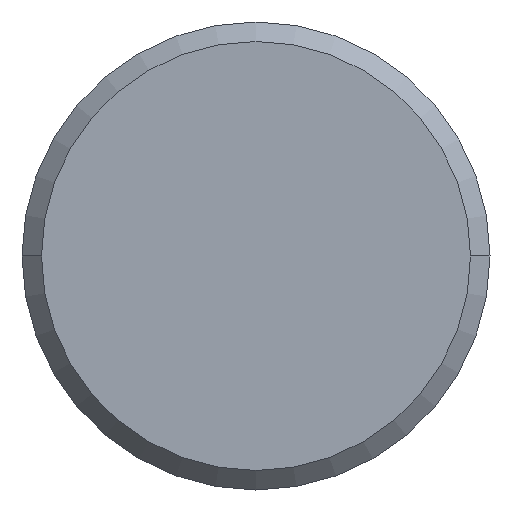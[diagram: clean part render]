
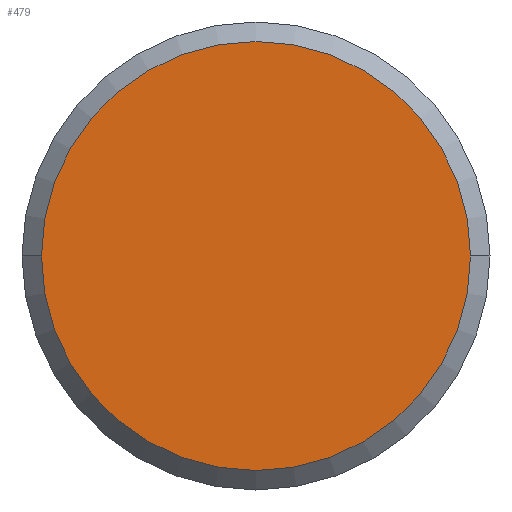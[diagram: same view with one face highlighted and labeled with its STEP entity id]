
A CAD part, left-side view. The second image highlights one B-rep face of the part: STEP entity #479.
In plain terms, the highlighted planar face has unit normal (-1, 0, 0).
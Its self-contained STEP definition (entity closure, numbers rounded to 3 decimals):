
#8 = VERTEX_POINT ( 'NONE', #398 ) ;
#29 = CIRCLE ( 'NONE', #414, 5.5 ) ;
#41 = VERTEX_POINT ( 'NONE', #141 ) ;
#44 = AXIS2_PLACEMENT_3D ( 'NONE', #435, #473, #219 ) ;
#70 = AXIS2_PLACEMENT_3D ( 'NONE', #422, #131, #394 ) ;
#78 = EDGE_CURVE ( 'NONE', #41, #8, #253, .T. ) ;
#131 = DIRECTION ( 'NONE',  ( -1., 0., 0. ) ) ;
#141 = CARTESIAN_POINT ( 'NONE',  ( -53., -5.5, 0. ) ) ;
#155 = EDGE_CURVE ( 'NONE', #8, #41, #29, .T. ) ;
#191 = CARTESIAN_POINT ( 'NONE',  ( -53., 0., 0. ) ) ;
#219 = DIRECTION ( 'NONE',  ( 0., 1., 0. ) ) ;
#253 = CIRCLE ( 'NONE', #44, 5.5 ) ;
#274 = DIRECTION ( 'NONE',  ( 0., 1., 0. ) ) ;
#281 = DIRECTION ( 'NONE',  ( 1., 0., 0. ) ) ;
#308 = FACE_OUTER_BOUND ( 'NONE', #349, .T. ) ;
#349 = EDGE_LOOP ( 'NONE', ( #402, #482 ) ) ;
#390 = PLANE ( 'NONE',  #70 ) ;
#394 = DIRECTION ( 'NONE',  ( 0., -1., 0. ) ) ;
#398 = CARTESIAN_POINT ( 'NONE',  ( -53., 5.5, 0. ) ) ;
#402 = ORIENTED_EDGE ( 'NONE', *, *, #155, .F. ) ;
#414 = AXIS2_PLACEMENT_3D ( 'NONE', #191, #281, #274 ) ;
#422 = CARTESIAN_POINT ( 'NONE',  ( -53., 0., 0. ) ) ;
#435 = CARTESIAN_POINT ( 'NONE',  ( -53., 0., 0. ) ) ;
#473 = DIRECTION ( 'NONE',  ( 1., 0., 0. ) ) ;
#479 = ADVANCED_FACE ( 'NONE', ( #308 ), #390, .T. ) ;
#482 = ORIENTED_EDGE ( 'NONE', *, *, #78, .F. ) ;
